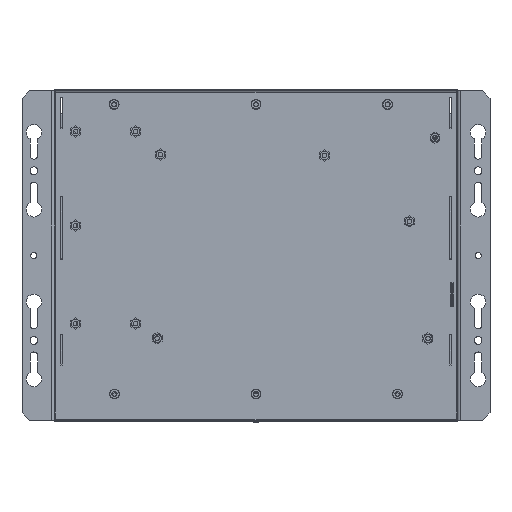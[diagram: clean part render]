
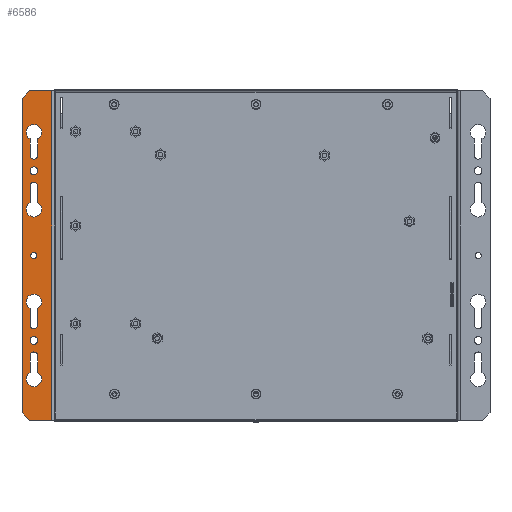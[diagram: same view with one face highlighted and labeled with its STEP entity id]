
A CAD part, front view. The second image highlights one B-rep face of the part: STEP entity #6586.
In plain terms, the highlighted planar face has unit normal (0, -1, 0).
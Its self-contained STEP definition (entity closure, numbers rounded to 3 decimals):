
#2758=DIRECTION('',(0.,0.,-1.));
#2759=VECTOR('',#2758,10.67);
#2760=CARTESIAN_POINT('',(-146.5,0.,-65.));
#2761=LINE('',#2760,#2759);
#2765=CARTESIAN_POINT('',(-144.,0.,-80.));
#2766=DIRECTION('',(0.,1.,0.));
#2767=DIRECTION('',(0.5,0.,0.866));
#2768=AXIS2_PLACEMENT_3D('',#2765,#2766,#2767);
#2773=DIRECTION('',(0.,0.,1.));
#2774=VECTOR('',#2773,10.67);
#2775=CARTESIAN_POINT('',(-141.5,0.,-75.67));
#2776=LINE('',#2775,#2774);
#2780=CARTESIAN_POINT('',(-144.,0.,-65.));
#2781=DIRECTION('',(0.,1.,0.));
#2782=DIRECTION('',(-1.,0.,0.));
#2783=AXIS2_PLACEMENT_3D('',#2780,#2781,#2782);
#2788=DIRECTION('',(0.,0.,-1.));
#2789=VECTOR('',#2788,10.67);
#2790=CARTESIAN_POINT('',(-146.5,0.,45.));
#2791=LINE('',#2790,#2789);
#2795=CARTESIAN_POINT('',(-144.,0.,30.));
#2796=DIRECTION('',(0.,1.,0.));
#2797=DIRECTION('',(0.5,0.,0.866));
#2798=AXIS2_PLACEMENT_3D('',#2795,#2796,#2797);
#2803=DIRECTION('',(0.,0.,1.));
#2804=VECTOR('',#2803,10.67);
#2805=CARTESIAN_POINT('',(-141.5,0.,34.33));
#2806=LINE('',#2805,#2804);
#2810=CARTESIAN_POINT('',(-144.,0.,45.));
#2811=DIRECTION('',(0.,1.,0.));
#2812=DIRECTION('',(-1.,0.,0.));
#2813=AXIS2_PLACEMENT_3D('',#2810,#2811,#2812);
#2818=CARTESIAN_POINT('',(-144.,0.,-45.));
#2819=DIRECTION('',(0.,1.,0.));
#2820=DIRECTION('',(1.,0.,0.));
#2821=AXIS2_PLACEMENT_3D('',#2818,#2819,#2820);
#2826=DIRECTION('',(0.,0.,1.));
#2827=VECTOR('',#2826,10.67);
#2828=CARTESIAN_POINT('',(-141.5,0.,-45.));
#2829=LINE('',#2828,#2827);
#2833=CARTESIAN_POINT('',(-144.,0.,-30.));
#2834=DIRECTION('',(0.,1.,0.));
#2835=DIRECTION('',(-0.5,0.,-0.866));
#2836=AXIS2_PLACEMENT_3D('',#2833,#2834,#2835);
#2841=DIRECTION('',(0.,0.,-1.));
#2842=VECTOR('',#2841,10.67);
#2843=CARTESIAN_POINT('',(-146.5,0.,-34.33));
#2844=LINE('',#2843,#2842);
#2848=CARTESIAN_POINT('',(-144.,0.,65.));
#2849=DIRECTION('',(0.,1.,0.));
#2850=DIRECTION('',(1.,0.,0.));
#2851=AXIS2_PLACEMENT_3D('',#2848,#2849,#2850);
#2856=DIRECTION('',(0.,0.,1.));
#2857=VECTOR('',#2856,10.67);
#2858=CARTESIAN_POINT('',(-141.5,0.,65.));
#2859=LINE('',#2858,#2857);
#2863=CARTESIAN_POINT('',(-144.,0.,80.));
#2864=DIRECTION('',(0.,1.,0.));
#2865=DIRECTION('',(-0.5,0.,-0.866));
#2866=AXIS2_PLACEMENT_3D('',#2863,#2864,#2865);
#2871=DIRECTION('',(0.,0.,-1.));
#2872=VECTOR('',#2871,10.67);
#2873=CARTESIAN_POINT('',(-146.5,0.,75.67));
#2874=LINE('',#2873,#2872);
#2878=CARTESIAN_POINT('',(-144.,0.,-55.));
#2879=DIRECTION('',(0.,1.,0.));
#2880=DIRECTION('',(1.,0.,0.));
#2881=AXIS2_PLACEMENT_3D('',#2878,#2879,#2880);
#2886=CARTESIAN_POINT('',(-144.,0.,-55.));
#2887=DIRECTION('',(0.,1.,0.));
#2888=DIRECTION('',(-1.,0.,0.));
#2889=AXIS2_PLACEMENT_3D('',#2886,#2887,#2888);
#2894=CARTESIAN_POINT('',(-144.,0.,55.));
#2895=DIRECTION('',(0.,1.,0.));
#2896=DIRECTION('',(1.,0.,0.));
#2897=AXIS2_PLACEMENT_3D('',#2894,#2895,#2896);
#2902=CARTESIAN_POINT('',(-144.,0.,55.));
#2903=DIRECTION('',(0.,1.,0.));
#2904=DIRECTION('',(-1.,0.,0.));
#2905=AXIS2_PLACEMENT_3D('',#2902,#2903,#2904);
#2910=DIRECTION('',(-0.707,0.,-0.707));
#2911=VECTOR('',#2910,7.071);
#2912=CARTESIAN_POINT('',(-146.7,0.,106.95));
#2913=LINE('',#2912,#2911);
#2917=DIRECTION('',(-1.,0.,0.));
#2918=VECTOR('',#2917,14.4);
#2919=CARTESIAN_POINT('',(-132.3,0.,106.95));
#2920=LINE('',#2919,#2918);
#2924=DIRECTION('',(1.,0.,0.));
#2925=VECTOR('',#2924,14.4);
#2926=CARTESIAN_POINT('',(-146.7,0.,-106.95));
#2927=LINE('',#2926,#2925);
#2931=DIRECTION('',(0.707,0.,-0.707));
#2932=VECTOR('',#2931,7.071);
#2933=CARTESIAN_POINT('',(-151.7,0.,-101.95));
#2934=LINE('',#2933,#2932);
#2938=DIRECTION('',(0.,0.,-1.));
#2939=VECTOR('',#2938,203.9);
#2940=CARTESIAN_POINT('',(-151.7,0.,101.95));
#2941=LINE('',#2940,#2939);
#2945=CARTESIAN_POINT('',(-144.,0.,0.));
#2946=DIRECTION('',(0.,-1.,0.));
#2947=DIRECTION('',(1.,0.,0.));
#2948=AXIS2_PLACEMENT_3D('',#2945,#2946,#2947);
#2953=CARTESIAN_POINT('',(-144.,0.,0.));
#2954=DIRECTION('',(0.,-1.,0.));
#2955=DIRECTION('',(-1.,0.,0.));
#2956=AXIS2_PLACEMENT_3D('',#2953,#2954,#2955);
#3122=DIRECTION('',(0.,0.,1.));
#3123=VECTOR('',#3122,213.9);
#3124=CARTESIAN_POINT('',(-132.3,0.,-106.95));
#3125=LINE('',#3124,#3123);
#5126=CARTESIAN_POINT('',(-132.3,0.,-106.95));
#5127=CARTESIAN_POINT('',(-132.3,0.,106.95));
#5128=VERTEX_POINT('',#5126);
#5129=VERTEX_POINT('',#5127);
#5190=CARTESIAN_POINT('',(-146.7,0.,106.95));
#5191=CARTESIAN_POINT('',(-151.7,0.,101.95));
#5192=VERTEX_POINT('',#5190);
#5193=VERTEX_POINT('',#5191);
#5198=CARTESIAN_POINT('',(-151.7,0.,-101.95));
#5199=VERTEX_POINT('',#5198);
#5202=CARTESIAN_POINT('',(-146.7,0.,-106.95));
#5203=VERTEX_POINT('',#5202);
#5286=CARTESIAN_POINT('',(-141.5,0.,55.));
#5287=CARTESIAN_POINT('',(-146.5,0.,55.));
#5288=VERTEX_POINT('',#5286);
#5289=VERTEX_POINT('',#5287);
#5290=CARTESIAN_POINT('',(-141.5,0.,-55.));
#5291=CARTESIAN_POINT('',(-146.5,0.,-55.));
#5292=VERTEX_POINT('',#5290);
#5293=VERTEX_POINT('',#5291);
#5294=CARTESIAN_POINT('',(-141.5,0.,65.));
#5295=CARTESIAN_POINT('',(-146.5,0.,65.));
#5296=VERTEX_POINT('',#5294);
#5297=VERTEX_POINT('',#5295);
#5298=CARTESIAN_POINT('',(-141.5,0.,75.67));
#5299=VERTEX_POINT('',#5298);
#5300=CARTESIAN_POINT('',(-146.5,0.,75.67));
#5301=VERTEX_POINT('',#5300);
#5302=CARTESIAN_POINT('',(-141.5,0.,-45.));
#5303=CARTESIAN_POINT('',(-146.5,0.,-45.));
#5304=VERTEX_POINT('',#5302);
#5305=VERTEX_POINT('',#5303);
#5306=CARTESIAN_POINT('',(-141.5,0.,-34.33));
#5307=VERTEX_POINT('',#5306);
#5308=CARTESIAN_POINT('',(-146.5,0.,-34.33));
#5309=VERTEX_POINT('',#5308);
#5310=CARTESIAN_POINT('',(-146.5,0.,45.));
#5311=CARTESIAN_POINT('',(-146.5,0.,34.33));
#5312=VERTEX_POINT('',#5310);
#5313=VERTEX_POINT('',#5311);
#5314=CARTESIAN_POINT('',(-141.5,0.,34.33));
#5315=VERTEX_POINT('',#5314);
#5316=CARTESIAN_POINT('',(-141.5,0.,45.));
#5317=VERTEX_POINT('',#5316);
#5318=CARTESIAN_POINT('',(-146.5,0.,-65.));
#5319=CARTESIAN_POINT('',(-146.5,0.,-75.67));
#5320=VERTEX_POINT('',#5318);
#5321=VERTEX_POINT('',#5319);
#5322=CARTESIAN_POINT('',(-141.5,0.,-75.67));
#5323=VERTEX_POINT('',#5322);
#5324=CARTESIAN_POINT('',(-141.5,0.,-65.));
#5325=VERTEX_POINT('',#5324);
#5358=CARTESIAN_POINT('',(-142.,0.,0.));
#5359=CARTESIAN_POINT('',(-146.,0.,0.));
#5360=VERTEX_POINT('',#5358);
#5361=VERTEX_POINT('',#5359);
#6511=CARTESIAN_POINT('',(-130.7,0.,-56.127));
#6512=DIRECTION('',(0.,-1.,0.));
#6513=DIRECTION('',(0.,0.,-1.));
#6514=AXIS2_PLACEMENT_3D('',#6511,#6512,#6513);
#6515=PLANE('',#6514);
#6517=ORIENTED_EDGE('',*,*,#6516,.F.);
#6519=ORIENTED_EDGE('',*,*,#6518,.F.);
#6521=ORIENTED_EDGE('',*,*,#6520,.F.);
#6523=ORIENTED_EDGE('',*,*,#6522,.F.);
#6525=ORIENTED_EDGE('',*,*,#6524,.F.);
#6527=ORIENTED_EDGE('',*,*,#6526,.F.);
#6528=EDGE_LOOP('',(#6517,#6519,#6521,#6523,#6525,#6527));
#6529=FACE_OUTER_BOUND('',#6528,.F.);
#6531=ORIENTED_EDGE('',*,*,#6530,.T.);
#6533=ORIENTED_EDGE('',*,*,#6532,.F.);
#6535=ORIENTED_EDGE('',*,*,#6534,.T.);
#6537=ORIENTED_EDGE('',*,*,#6536,.F.);
#6538=EDGE_LOOP('',(#6531,#6533,#6535,#6537));
#6539=FACE_BOUND('',#6538,.F.);
#6541=ORIENTED_EDGE('',*,*,#6540,.F.);
#6543=ORIENTED_EDGE('',*,*,#6542,.T.);
#6545=ORIENTED_EDGE('',*,*,#6544,.F.);
#6547=ORIENTED_EDGE('',*,*,#6546,.T.);
#6548=EDGE_LOOP('',(#6541,#6543,#6545,#6547));
#6549=FACE_BOUND('',#6548,.F.);
#6551=ORIENTED_EDGE('',*,*,#6550,.F.);
#6553=ORIENTED_EDGE('',*,*,#6552,.T.);
#6555=ORIENTED_EDGE('',*,*,#6554,.F.);
#6557=ORIENTED_EDGE('',*,*,#6556,.T.);
#6558=EDGE_LOOP('',(#6551,#6553,#6555,#6557));
#6559=FACE_BOUND('',#6558,.F.);
#6561=ORIENTED_EDGE('',*,*,#6560,.F.);
#6563=ORIENTED_EDGE('',*,*,#6562,.F.);
#6564=EDGE_LOOP('',(#6561,#6563));
#6565=FACE_BOUND('',#6564,.F.);
#6566=ORIENTED_EDGE('',*,*,#6491,.F.);
#6567=ORIENTED_EDGE('',*,*,#6505,.F.);
#6568=EDGE_LOOP('',(#6566,#6567));
#6569=FACE_BOUND('',#6568,.F.);
#6571=ORIENTED_EDGE('',*,*,#6570,.T.);
#6573=ORIENTED_EDGE('',*,*,#6572,.F.);
#6575=ORIENTED_EDGE('',*,*,#6574,.T.);
#6577=ORIENTED_EDGE('',*,*,#6576,.F.);
#6578=EDGE_LOOP('',(#6571,#6573,#6575,#6577));
#6579=FACE_BOUND('',#6578,.F.);
#6581=ORIENTED_EDGE('',*,*,#6580,.T.);
#6583=ORIENTED_EDGE('',*,*,#6582,.T.);
#6584=EDGE_LOOP('',(#6581,#6583));
#6585=FACE_BOUND('',#6584,.F.);
#2769=CIRCLE('',#2768,5.);
#2784=CIRCLE('',#2783,2.5);
#2799=CIRCLE('',#2798,5.);
#2814=CIRCLE('',#2813,2.5);
#2822=CIRCLE('',#2821,2.5);
#2837=CIRCLE('',#2836,5.);
#2852=CIRCLE('',#2851,2.5);
#2867=CIRCLE('',#2866,5.);
#2882=CIRCLE('',#2881,2.5);
#2890=CIRCLE('',#2889,2.5);
#2898=CIRCLE('',#2897,2.5);
#2906=CIRCLE('',#2905,2.5);
#2949=CIRCLE('',#2948,2.);
#2957=CIRCLE('',#2956,2.);
#6491=EDGE_CURVE('',#5288,#5289,#2898,.T.);
#6505=EDGE_CURVE('',#5289,#5288,#2906,.T.);
#6516=EDGE_CURVE('',#5192,#5193,#2913,.T.);
#6518=EDGE_CURVE('',#5129,#5192,#2920,.T.);
#6520=EDGE_CURVE('',#5128,#5129,#3125,.T.);
#6522=EDGE_CURVE('',#5203,#5128,#2927,.T.);
#6524=EDGE_CURVE('',#5199,#5203,#2934,.T.);
#6526=EDGE_CURVE('',#5193,#5199,#2941,.T.);
#6530=EDGE_CURVE('',#5312,#5313,#2791,.T.);
#6532=EDGE_CURVE('',#5315,#5313,#2799,.T.);
#6534=EDGE_CURVE('',#5315,#5317,#2806,.T.);
#6536=EDGE_CURVE('',#5312,#5317,#2814,.T.);
#6540=EDGE_CURVE('',#5304,#5305,#2822,.T.);
#6542=EDGE_CURVE('',#5304,#5307,#2829,.T.);
#6544=EDGE_CURVE('',#5309,#5307,#2837,.T.);
#6546=EDGE_CURVE('',#5309,#5305,#2844,.T.);
#6550=EDGE_CURVE('',#5296,#5297,#2852,.T.);
#6552=EDGE_CURVE('',#5296,#5299,#2859,.T.);
#6554=EDGE_CURVE('',#5301,#5299,#2867,.T.);
#6556=EDGE_CURVE('',#5301,#5297,#2874,.T.);
#6560=EDGE_CURVE('',#5292,#5293,#2882,.T.);
#6562=EDGE_CURVE('',#5293,#5292,#2890,.T.);
#6570=EDGE_CURVE('',#5320,#5321,#2761,.T.);
#6572=EDGE_CURVE('',#5323,#5321,#2769,.T.);
#6574=EDGE_CURVE('',#5323,#5325,#2776,.T.);
#6576=EDGE_CURVE('',#5320,#5325,#2784,.T.);
#6580=EDGE_CURVE('',#5360,#5361,#2949,.T.);
#6582=EDGE_CURVE('',#5361,#5360,#2957,.T.);
#6586=ADVANCED_FACE('',(#6529,#6539,#6549,#6559,#6565,#6569,#6579,#6585),#6515,
.T.);
